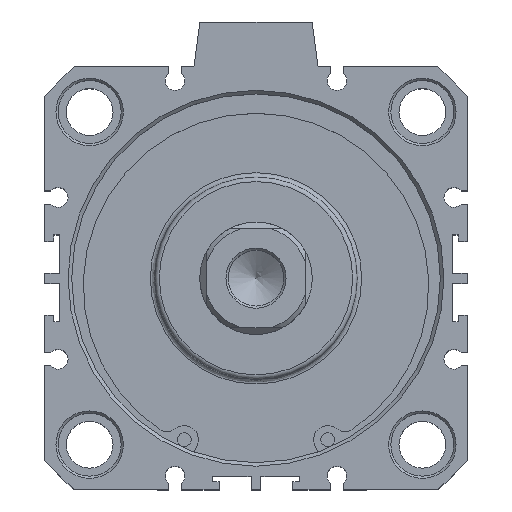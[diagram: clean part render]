
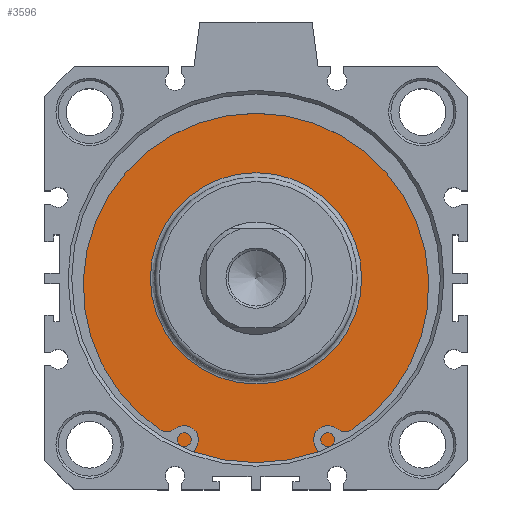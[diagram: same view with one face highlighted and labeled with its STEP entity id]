
A CAD part, top view. The second image highlights one B-rep face of the part: STEP entity #3596.
In plain terms, the highlighted planar face has unit normal (0, 0, 1).
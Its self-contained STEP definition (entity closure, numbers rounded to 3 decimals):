
#3545=CARTESIAN_POINT('',(2.033,24.337,45.6));
#3546=VERTEX_POINT('',#3545);
#3547=CARTESIAN_POINT('',(2.033,0.837,45.6));
#3548=DIRECTION('',(0.0,0.0,1.0));
#3549=DIRECTION('',(0.0,-1.0,0.0));
#3550=AXIS2_PLACEMENT_3D('',#3547,#3548,#3549);
#3551=CIRCLE('',#3550,23.5);
#3552=EDGE_CURVE('',#3546,#3546,#3551,.T.);
#3577=CARTESIAN_POINT('',(2.033,32.587,45.6));
#3578=DIRECTION('',(0.0,0.0,1.0));
#3579=DIRECTION('',(1.0,0.0,0.0));
#3580=AXIS2_PLACEMENT_3D('',#3577,#3578,#3579);
#3581=PLANE('',#3580);
#3582=CARTESIAN_POINT('',(2.033,41.837,45.6));
#3583=VERTEX_POINT('',#3582);
#3584=CARTESIAN_POINT('',(2.033,0.837,45.6));
#3585=DIRECTION('',(0.0,0.0,-1.0));
#3586=DIRECTION('',(0.0,1.0,0.0));
#3587=AXIS2_PLACEMENT_3D('',#3584,#3585,#3586);
#3588=CIRCLE('',#3587,41.);
#3589=EDGE_CURVE('',#3583,#3583,#3588,.T.);
#3590=ORIENTED_EDGE('',*,*,#3589,.F.);
#3591=EDGE_LOOP('',(#3590));
#3592=FACE_OUTER_BOUND('',#3591,.T.);
#3593=ORIENTED_EDGE('',*,*,#3552,.F.);
#3594=EDGE_LOOP('',(#3593));
#3595=FACE_BOUND('',#3594,.T.);
#3596=ADVANCED_FACE('',(#3592,#3595),#3581,.T.);
